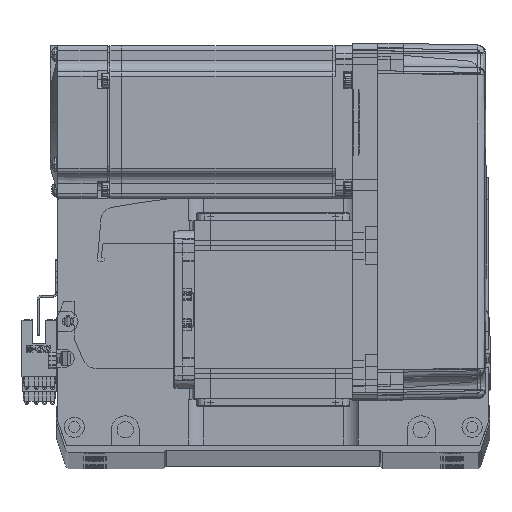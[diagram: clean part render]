
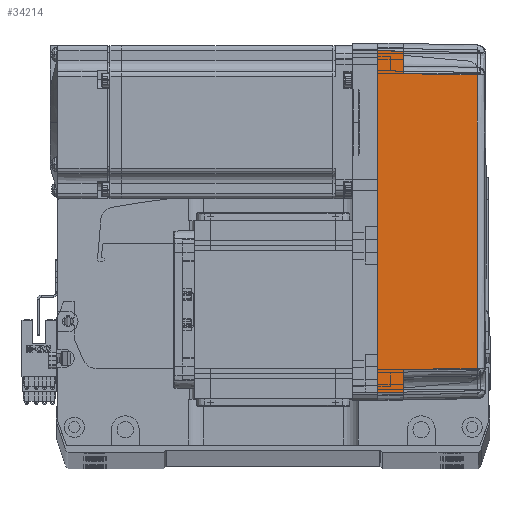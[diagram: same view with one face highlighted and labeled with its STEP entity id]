
A CAD part, top view. The second image highlights one B-rep face of the part: STEP entity #34214.
In plain terms, the highlighted planar face has unit normal (0.018, 0, 1) as drawn and (0, -1, 0.017) by its records, which use the part's own axes.
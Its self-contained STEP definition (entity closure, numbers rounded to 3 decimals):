
#2045 = VERTEX_POINT ( 'NONE', #10308 ) ;
#4773 = CARTESIAN_POINT ( 'NONE',  ( -57.495, -35.32, 38.985 ) ) ;
#4830 = CARTESIAN_POINT ( 'NONE',  ( 19.165, -35.316, 39.181 ) ) ;
#5190 = CARTESIAN_POINT ( 'NONE',  ( -58., -35.825, 10. ) ) ;
#5757 = DIRECTION ( 'NONE',  ( 0.017, 0.017, 1. ) ) ;
#7098 = CARTESIAN_POINT ( 'NONE',  ( 70., -35.825, 10. ) ) ;
#8432 = CARTESIAN_POINT ( 'NONE',  ( 70., -36., 0. ) ) ;
#8677 = DIRECTION ( 'NONE',  ( 0., -0.017, -1. ) ) ;
#8995 = LINE ( 'NONE', #29034, #51266 ) ;
#9464 = VECTOR ( 'NONE', #51656, 1000. ) ;
#10308 = CARTESIAN_POINT ( 'NONE',  ( 66.826, -35.825, 10. ) ) ;
#10849 = ORIENTED_EDGE ( 'NONE', *, *, #50533, .T. ) ;
#11491 = LINE ( 'NONE', #7098, #38059 ) ;
#13814 = VERTEX_POINT ( 'NONE', #60921 ) ;
#14743 = ORIENTED_EDGE ( 'NONE', *, *, #16288, .T. ) ;
#15030 = ORIENTED_EDGE ( 'NONE', *, *, #21319, .T. ) ;
#16288 = EDGE_CURVE ( 'NONE', #49305, #21827, #11491, .T. ) ;
#17788 = FACE_OUTER_BOUND ( 'NONE', #20015, .T. ) ;
#18631 = LINE ( 'NONE', #41655, #62801 ) ;
#20015 = EDGE_LOOP ( 'NONE', ( #15030, #69561, #45764, #36012, #10849, #14743, #72694, #68267 ) ) ;
#20307 = EDGE_CURVE ( 'NONE', #13814, #46435, #42655, .T. ) ;
#20554 = VECTOR ( 'NONE', #62372, 1000. ) ;
#21319 = EDGE_CURVE ( 'NONE', #13814, #2045, #18631, .T. ) ;
#21827 = VERTEX_POINT ( 'NONE', #69940 ) ;
#23760 = DIRECTION ( 'NONE',  ( -1., 0., 0. ) ) ;
#25037 = CARTESIAN_POINT ( 'NONE',  ( -67., -36., 0. ) ) ;
#27620 = VECTOR ( 'NONE', #64491, 1000. ) ;
#29034 = CARTESIAN_POINT ( 'NONE',  ( -66.959, -35.958, 2.39 ) ) ;
#30021 = DIRECTION ( 'NONE',  ( -0.017, 0.017, 1. ) ) ;
#32056 = LINE ( 'NONE', #50481, #20554 ) ;
#32450 = CARTESIAN_POINT ( 'NONE',  ( -57.495, -35.32, 38.985 ) ) ;
#33280 = CARTESIAN_POINT ( 'NONE',  ( -19.165, -35.316, 39.181 ) ) ;
#34214 = ADVANCED_FACE ( 'NONE', ( #17788 ), #64839, .T. ) ;
#35722 = EDGE_CURVE ( 'NONE', #52248, #73136, #60430, .T. ) ;
#36012 = ORIENTED_EDGE ( 'NONE', *, *, #35722, .T. ) ;
#38059 = VECTOR ( 'NONE', #23760, 1000. ) ;
#41655 = CARTESIAN_POINT ( 'NONE',  ( 67., -36., 0. ) ) ;
#42655 = LINE ( 'NONE', #65220, #27620 ) ;
#45125 = CARTESIAN_POINT ( 'NONE',  ( 57.495, -35.32, 38.985 ) ) ;
#45418 = EDGE_CURVE ( 'NONE', #46435, #21827, #8995, .T. ) ;
#45732 = LINE ( 'NONE', #32450, #46567 ) ;
#45764 = ORIENTED_EDGE ( 'NONE', *, *, #56173, .T. ) ;
#46435 = VERTEX_POINT ( 'NONE', #25037 ) ;
#46567 = VECTOR ( 'NONE', #48714, 1000. ) ;
#48714 = DIRECTION ( 'NONE',  ( -0.017, -0.017, -1. ) ) ;
#49305 = VERTEX_POINT ( 'NONE', #5190 ) ;
#50481 = CARTESIAN_POINT ( 'NONE',  ( 70., -35.825, 10. ) ) ;
#50533 = EDGE_CURVE ( 'NONE', #73136, #49305, #45732, .T. ) ;
#50809 = CARTESIAN_POINT ( 'NONE',  ( -57.495, -35.32, 38.985 ) ) ;
#51077 = VERTEX_POINT ( 'NONE', #54838 ) ;
#51266 = VECTOR ( 'NONE', #5757, 1000. ) ;
#51656 = DIRECTION ( 'NONE',  ( -0.017, 0.017, 1. ) ) ;
#52248 = VERTEX_POINT ( 'NONE', #63393 ) ;
#54838 = CARTESIAN_POINT ( 'NONE',  ( 58., -35.825, 10. ) ) ;
#56173 = EDGE_CURVE ( 'NONE', #51077, #52248, #58187, .T. ) ;
#58187 = LINE ( 'NONE', #63019, #9464 ) ;
#60430 = B_SPLINE_CURVE_WITH_KNOTS ( 'NONE', 3,
 ( #45125, #4830, #33280, #50809 ),
 .UNSPECIFIED., .F., .F.,
 ( 4, 4 ),
 ( 0., 1. ),
 .UNSPECIFIED. ) ;
#60921 = CARTESIAN_POINT ( 'NONE',  ( 67., -36., 0. ) ) ;
#62372 = DIRECTION ( 'NONE',  ( -1., 0., 0. ) ) ;
#62801 = VECTOR ( 'NONE', #30021, 1000. ) ;
#63019 = CARTESIAN_POINT ( 'NONE',  ( 58., -35.825, 10. ) ) ;
#63393 = CARTESIAN_POINT ( 'NONE',  ( 57.495, -35.32, 38.985 ) ) ;
#64491 = DIRECTION ( 'NONE',  ( -1., 0., 0. ) ) ;
#64839 = PLANE ( 'NONE',  #69599 ) ;
#65220 = CARTESIAN_POINT ( 'NONE',  ( 0., -36., 0. ) ) ;
#66997 = EDGE_CURVE ( 'NONE', #2045, #51077, #32056, .T. ) ;
#68267 = ORIENTED_EDGE ( 'NONE', *, *, #20307, .F. ) ;
#69561 = ORIENTED_EDGE ( 'NONE', *, *, #66997, .T. ) ;
#69599 = AXIS2_PLACEMENT_3D ( 'NONE', #8432, #70519, #8677 ) ;
#69940 = CARTESIAN_POINT ( 'NONE',  ( -66.826, -35.825, 10. ) ) ;
#70519 = DIRECTION ( 'NONE',  ( 0., -1., 0.017 ) ) ;
#72694 = ORIENTED_EDGE ( 'NONE', *, *, #45418, .F. ) ;
#73136 = VERTEX_POINT ( 'NONE', #4773 ) ;
